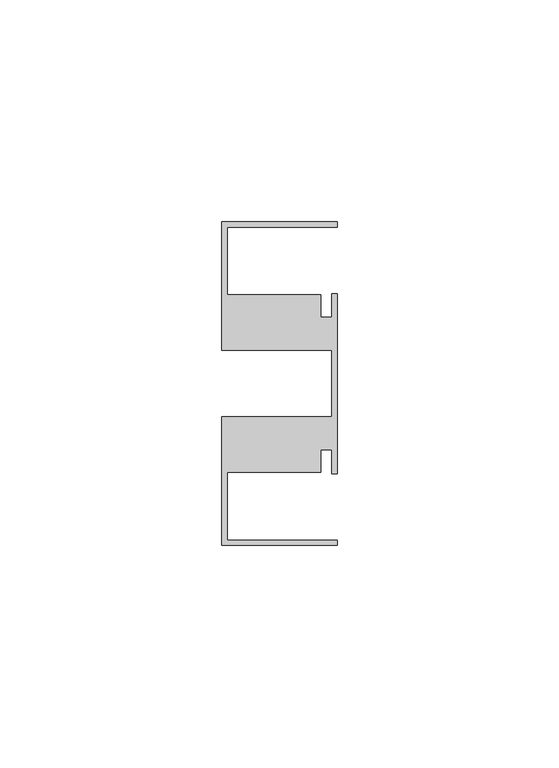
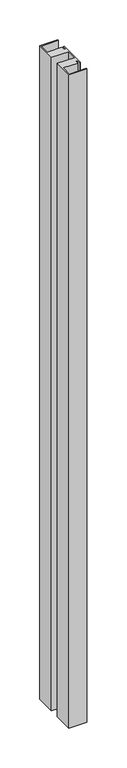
"""IFC4 building model written with IfcOpenShell, lengths in millimetres: member geometry, Прямоугольный импост : 9-AMG-1-Профиль 26Х73 Верх П."""

from ifc_helpers import new_model, si_unit, frame, origin, place, context, project, spatial, polyline, outline, extrude, source, transform, mapped, element, save


def member_c1b2ecbe(model_context):
    return source(origin(), model_context, "Body", "SweptSolid", [
        extrude(outline(polyline([(-26.0, -36.5), (-26.0, -7.5116043), (-1.2, -7.5116043), (-1.2, 7.5116043), (-26.0, 7.5116043), (-26.0, 36.5), (0.0, 36.5), (0.0, 35.3), (-24.8, 35.3), (-24.8, 20.0), (-3.7, 20.0), (-3.7, 14.95), (-1.2, 14.95), (-1.2, 20.3007529), (0.0, 20.3007529), (0.0, -20.3007529), (-1.2, -20.3007529), (-1.2, -14.95), (-3.7, -14.95), (-3.7, -20.0), (-24.8, -20.0), (-24.8, -35.3), (0.0, -35.3), (0.0, -36.5), (-26.0, -36.5)])), frame((0.0, 0.0, -1000.0), z_axis=(0.0, 0.0, 1.0), x_axis=(1.0, 0.0, 0.0)), (0.0, 0.0, 1.0), 1000.0),
    ])


if __name__ == "__main__":
    model = new_model("IFC4")
    model_context = context("Model", 3, world=origin())
    ifc_project = project(units=[si_unit("LENGTHUNIT", "METRE", prefix="MILLI")], contexts=[model_context])
    site = spatial("IfcSite", under=ifc_project)
    building = spatial("IfcBuilding", under=site)
    placement = place(None, origin())
    member_shape = member_c1b2ecbe(model_context)
    element("IfcMember", 1, ObjectType="Прямоугольный импост : 9-AMG-1-Профиль 26Х73 Верх П", at=placement, inside=building, context=model_context, shape_type="MappedRepresentation", body=[
        mapped(member_shape, transform((0.0, 0.0, 0.0), x_axis=(1.0, 0.0, 0.0), y_axis=(0.0, 1.0, 0.0), z_axis=(0.0, 0.0, 1.0))),
    ])
    save(model, "model.ifc")
